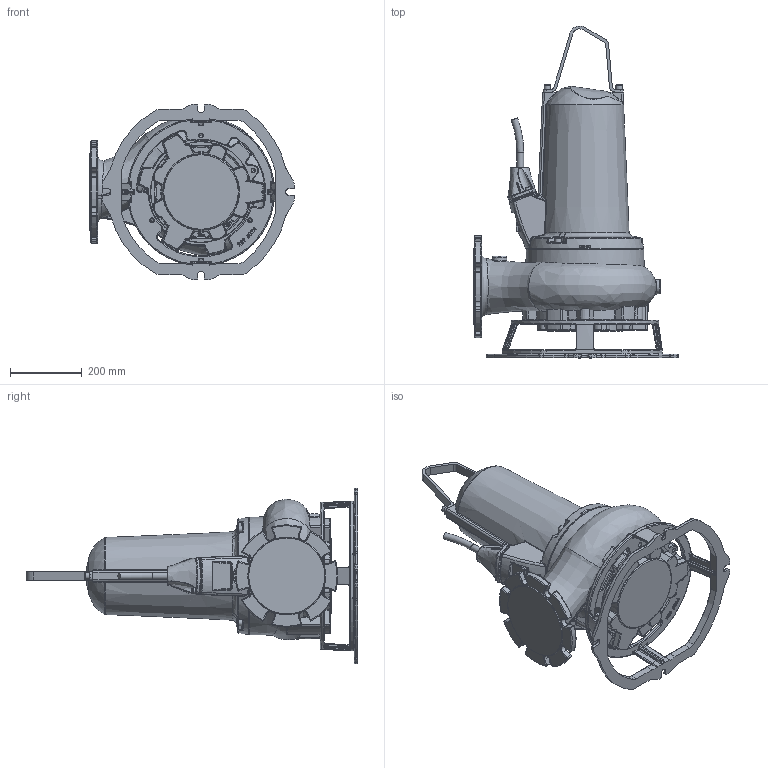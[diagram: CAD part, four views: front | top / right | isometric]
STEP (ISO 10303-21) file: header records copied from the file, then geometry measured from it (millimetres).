
FILE_DESCRIPTION (( 'STEP AP203' ), '1' );
FILE_NAME ('XFP150E-CB1_PE2B_Wet_Transportable-.step', '2024-01-16T15:45:51', ( '' ), ( '' ), 'SwSTEP 2.0', 'SolidWorks 2017', '' );
FILE_SCHEMA (( 'CONFIG_CONTROL_DESIGN' ));
Length unit declared in the file: millimetre
Products named in the file (2): XFP150E-CB1_PE2B_Wet_Transportable-
Bounding box: 570 x 924.21 x 490 mm (x, y, z)
Volume: 46700835.1 mm3; surface area: 1409526.7 mm2
Topology: 12 solids, 16 shells, 2541 faces, 6178 edges, 3605 vertices
Faces by surface type: bspline 944, cylinder 559, plane 518, torus 314, cone 107, sphere 99
Full cylindrical faces by diameter (mm): 6 x1, 6.8 x2, 8 x4, 9 x2, 10.2 x9, 12 x14, 12.5 x2, 13 x8, 18 x5, 18.7 x1, 62 x1, 212 x1, 280 x1, 410 x1
Entity records: 138649 total; most frequent: CARTESIAN_POINT 87608, ORIENTED_EDGE 11784, DIRECTION 8800, EDGE_CURVE 5892, AXIS2_PLACEMENT_3D 3561, VERTEX_POINT 3557, EDGE_LOOP 2739, FACE_OUTER_BOUND 2622
